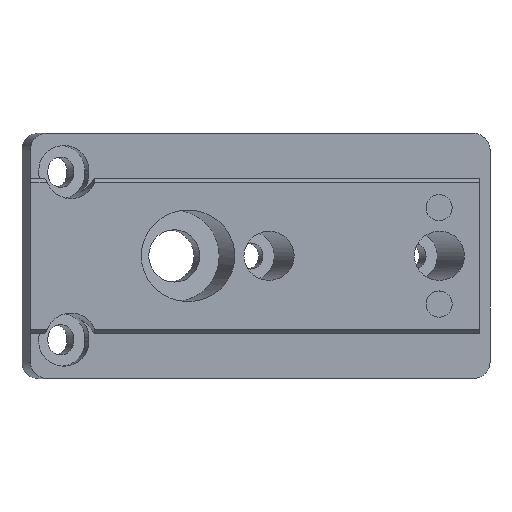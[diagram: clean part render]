
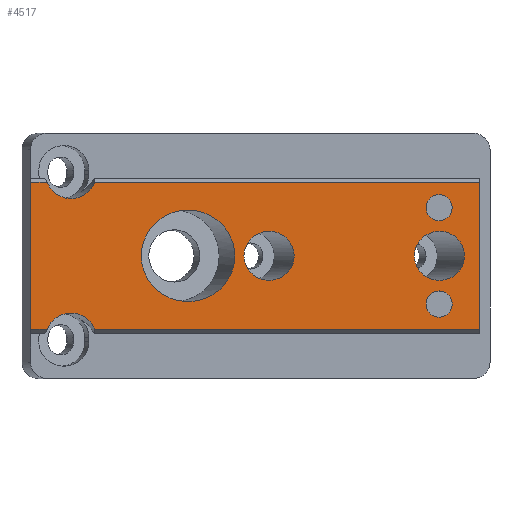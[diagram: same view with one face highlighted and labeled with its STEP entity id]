
A CAD part, top view. The second image highlights one B-rep face of the part: STEP entity #4517.
In plain terms, the highlighted planar face has unit normal (0, 0, 1).
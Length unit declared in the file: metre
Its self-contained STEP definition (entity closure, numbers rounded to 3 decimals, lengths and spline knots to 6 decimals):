
#150=ELLIPSE('',#4803,0.005725,0.0056);
#151=ELLIPSE('',#4804,0.003067,0.003);
#152=ELLIPSE('',#4805,0.003067,0.003);
#153=ELLIPSE('',#4808,0.003067,0.003);
#154=ELLIPSE('',#4809,0.003067,0.003);
#244=CIRCLE('',#4806,0.0016);
#245=CIRCLE('',#4807,0.0016);
#359=ORIENTED_EDGE('',*,*,#1725,.T.);
#360=ORIENTED_EDGE('',*,*,#1726,.T.);
#361=ORIENTED_EDGE('',*,*,#1727,.T.);
#362=ORIENTED_EDGE('',*,*,#1728,.T.);
#363=ORIENTED_EDGE('',*,*,#1729,.T.);
#364=ORIENTED_EDGE('',*,*,#1730,.F.);
#365=ORIENTED_EDGE('',*,*,#1731,.T.);
#366=ORIENTED_EDGE('',*,*,#1732,.F.);
#367=ORIENTED_EDGE('',*,*,#1733,.T.);
#368=ORIENTED_EDGE('',*,*,#1734,.F.);
#369=ORIENTED_EDGE('',*,*,#1735,.T.);
#370=ORIENTED_EDGE('',*,*,#1736,.T.);
#371=ORIENTED_EDGE('',*,*,#1737,.T.);
#1725=EDGE_CURVE('',#2408,#2408,#150,.T.);
#1726=EDGE_CURVE('',#2409,#2409,#151,.T.);
#1727=EDGE_CURVE('',#2410,#2410,#152,.T.);
#1728=EDGE_CURVE('',#2411,#2411,#244,.T.);
#1729=EDGE_CURVE('',#2412,#2412,#245,.T.);
#1730=EDGE_CURVE('',#2413,#2414,#153,.F.);
#1731=EDGE_CURVE('',#2413,#2415,#2849,.T.);
#1732=EDGE_CURVE('',#2416,#2415,#2850,.T.);
#1733=EDGE_CURVE('',#2416,#2417,#2851,.T.);
#1734=EDGE_CURVE('',#2418,#2417,#154,.F.);
#1735=EDGE_CURVE('',#2418,#2419,#2852,.T.);
#1736=EDGE_CURVE('',#2419,#2420,#2853,.T.);
#1737=EDGE_CURVE('',#2420,#2414,#2854,.T.);
#2408=VERTEX_POINT('',#6314);
#2409=VERTEX_POINT('',#6316);
#2410=VERTEX_POINT('',#6318);
#2411=VERTEX_POINT('',#6320);
#2412=VERTEX_POINT('',#6322);
#2413=VERTEX_POINT('',#6324);
#2414=VERTEX_POINT('',#6325);
#2415=VERTEX_POINT('',#6327);
#2416=VERTEX_POINT('',#6329);
#2417=VERTEX_POINT('',#6331);
#2418=VERTEX_POINT('',#6333);
#2419=VERTEX_POINT('',#6335);
#2420=VERTEX_POINT('',#6337);
#2849=LINE('',#6326,#3324);
#2850=LINE('',#6328,#3325);
#2851=LINE('',#6330,#3326);
#2852=LINE('',#6334,#3327);
#2853=LINE('',#6336,#3328);
#2854=LINE('',#6338,#3329);
#3324=VECTOR('',#5185,1.);
#3325=VECTOR('',#5186,1.);
#3326=VECTOR('',#5187,1.);
#3327=VECTOR('',#5190,1.);
#3328=VECTOR('',#5191,1.);
#3329=VECTOR('',#5192,1.);
#3786=EDGE_LOOP('',(#359));
#3787=EDGE_LOOP('',(#360));
#3788=EDGE_LOOP('',(#361));
#3789=EDGE_LOOP('',(#362));
#3790=EDGE_LOOP('',(#363));
#3791=EDGE_LOOP('',(#364,#365,#366,#367,#368,#369,#370,#371));
#4077=FACE_BOUND('',#3786,.T.);
#4078=FACE_BOUND('',#3787,.T.);
#4079=FACE_BOUND('',#3788,.T.);
#4080=FACE_BOUND('',#3789,.T.);
#4081=FACE_BOUND('',#3790,.T.);
#4082=FACE_BOUND('',#3791,.T.);
#4360=PLANE('',#4802);
#4517=ADVANCED_FACE('',(#4077,#4078,#4079,#4080,#4081,#4082),#4360,.F.);
#4802=AXIS2_PLACEMENT_3D('',#6312,#5171,#5172);
#4803=AXIS2_PLACEMENT_3D('',#6313,#5173,#5174);
#4804=AXIS2_PLACEMENT_3D('',#6315,#5175,#5176);
#4805=AXIS2_PLACEMENT_3D('',#6317,#5177,#5178);
#4806=AXIS2_PLACEMENT_3D('',#6319,#5179,#5180);
#4807=AXIS2_PLACEMENT_3D('',#6321,#5181,#5182);
#4808=AXIS2_PLACEMENT_3D('',#6323,#5183,#5184);
#4809=AXIS2_PLACEMENT_3D('',#6332,#5188,#5189);
#5171=DIRECTION('',(0.,0.,-1.));
#5172=DIRECTION('',(-1.,0.,0.));
#5173=DIRECTION('',(0.,0.,-1.));
#5174=DIRECTION('',(-1.,0.,0.));
#5175=DIRECTION('',(0.,0.,-1.));
#5176=DIRECTION('',(-1.,0.,0.));
#5177=DIRECTION('',(0.,0.,-1.));
#5178=DIRECTION('',(-1.,0.,0.));
#5179=DIRECTION('',(0.,0.,-1.));
#5180=DIRECTION('',(-1.,0.,0.));
#5181=DIRECTION('',(0.,0.,-1.));
#5182=DIRECTION('',(-1.,0.,0.));
#5183=DIRECTION('',(0.,0.,-1.));
#5184=DIRECTION('',(-1.,0.,0.));
#5185=DIRECTION('',(1.,0.,0.));
#5186=DIRECTION('',(0.,-1.,0.));
#5187=DIRECTION('',(-1.,0.,0.));
#5188=DIRECTION('',(0.,0.,-1.));
#5189=DIRECTION('',(-1.,0.,0.));
#5190=DIRECTION('',(-1.,0.,0.));
#5191=DIRECTION('',(0.,-1.,0.));
#5192=DIRECTION('',(1.,0.,0.));
#6312=CARTESIAN_POINT('',(0.055,0.,0.0041));
#6313=CARTESIAN_POINT('',(0.019274,0.,0.0041));
#6314=CARTESIAN_POINT('',(0.013549,0.,0.0041));
#6315=CARTESIAN_POINT('',(0.050046,0.,0.0041));
#6316=CARTESIAN_POINT('',(0.046979,0.,0.0041));
#6317=CARTESIAN_POINT('',(0.02919,0.,0.0041));
#6318=CARTESIAN_POINT('',(0.026123,0.,0.0041));
#6319=CARTESIAN_POINT('',(0.05,0.0059,0.0041));
#6320=CARTESIAN_POINT('',(0.0484,0.0059,0.0041));
#6321=CARTESIAN_POINT('',(0.05,-0.0059,0.0041));
#6322=CARTESIAN_POINT('',(0.0484,-0.0059,0.0041));
#6323=CARTESIAN_POINT('',(0.004961,-0.01,0.0041));
#6324=CARTESIAN_POINT('',(0.007854,-0.009004,0.0041));
#6325=CARTESIAN_POINT('',(0.002068,-0.009004,0.0041));
#6326=CARTESIAN_POINT('',(0.055,-0.009004,0.0041));
#6327=CARTESIAN_POINT('',(0.055,-0.009004,0.0041));
#6328=CARTESIAN_POINT('',(0.055,0.,0.0041));
#6329=CARTESIAN_POINT('',(0.055,0.009004,0.0041));
#6330=CARTESIAN_POINT('',(0.,0.009004,0.0041));
#6331=CARTESIAN_POINT('',(0.007854,0.009004,0.0041));
#6332=CARTESIAN_POINT('',(0.004961,0.01,0.0041));
#6333=CARTESIAN_POINT('',(0.002068,0.009004,0.0041));
#6334=CARTESIAN_POINT('',(0.,0.009004,0.0041));
#6335=CARTESIAN_POINT('',(0.,0.009004,0.0041));
#6336=CARTESIAN_POINT('',(0.,0.,0.0041));
#6337=CARTESIAN_POINT('',(0.,-0.009004,0.0041));
#6338=CARTESIAN_POINT('',(0.055,-0.009004,0.0041));
